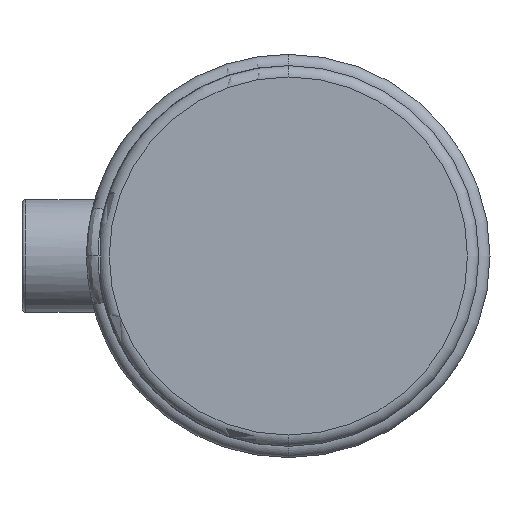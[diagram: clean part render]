
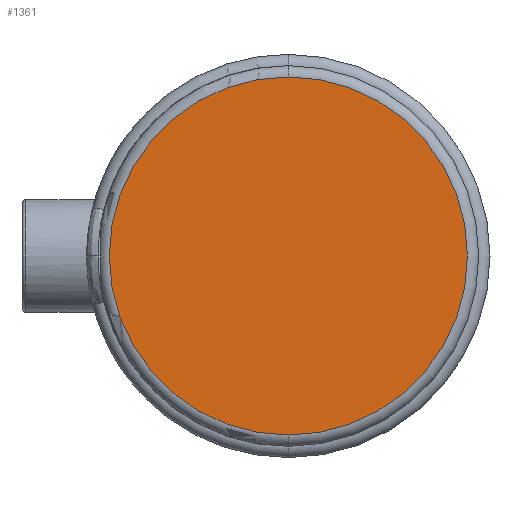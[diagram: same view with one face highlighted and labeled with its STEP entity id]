
A CAD part, left-side view. The second image highlights one B-rep face of the part: STEP entity #1361.
In plain terms, the highlighted planar face has unit normal (-1, 0, 0).
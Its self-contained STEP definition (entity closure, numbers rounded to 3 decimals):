
#323 = VERTEX_POINT ( 'NONE', #5887 ) ;
#389 = VERTEX_POINT ( 'NONE', #1338 ) ;
#445 = DIRECTION ( 'NONE',  ( 0., 0., 1. ) ) ;
#516 = DIRECTION ( 'NONE',  ( 0., 0., 1. ) ) ;
#1268 = ORIENTED_EDGE ( 'NONE', *, *, #3667, .T. ) ;
#1338 = CARTESIAN_POINT ( 'NONE',  ( 0., 0., 47.6 ) ) ;
#1361 = ADVANCED_FACE ( 'NONE', ( #2743 ), #5017, .T. ) ;
#1680 = EDGE_CURVE ( 'NONE', #389, #323, #3360, .T. ) ;
#1699 = DIRECTION ( 'NONE',  ( -1., 0., 0. ) ) ;
#1759 = EDGE_LOOP ( 'NONE', ( #3390, #1268 ) ) ;
#2743 = FACE_OUTER_BOUND ( 'NONE', #1759, .T. ) ;
#3255 = DIRECTION ( 'NONE',  ( -1., 0., 0. ) ) ;
#3314 = DIRECTION ( 'NONE',  ( -1., 0., 0. ) ) ;
#3360 = CIRCLE ( 'NONE', #3528, 47.6 ) ;
#3390 = ORIENTED_EDGE ( 'NONE', *, *, #1680, .T. ) ;
#3528 = AXIS2_PLACEMENT_3D ( 'NONE', #6040, #3314, #516 ) ;
#3667 = EDGE_CURVE ( 'NONE', #323, #389, #5236, .T. ) ;
#3668 = CARTESIAN_POINT ( 'NONE',  ( 0., 0., 0. ) ) ;
#4144 = AXIS2_PLACEMENT_3D ( 'NONE', #3668, #3255, #445 ) ;
#4348 = CARTESIAN_POINT ( 'NONE',  ( 0., 0., 0. ) ) ;
#4809 = DIRECTION ( 'NONE',  ( 0., 0., 1. ) ) ;
#5017 = PLANE ( 'NONE',  #4144 ) ;
#5236 = CIRCLE ( 'NONE', #5876, 47.6 ) ;
#5876 = AXIS2_PLACEMENT_3D ( 'NONE', #4348, #1699, #4809 ) ;
#5887 = CARTESIAN_POINT ( 'NONE',  ( 0., 0., -47.6 ) ) ;
#6040 = CARTESIAN_POINT ( 'NONE',  ( 0., 0., 0. ) ) ;
